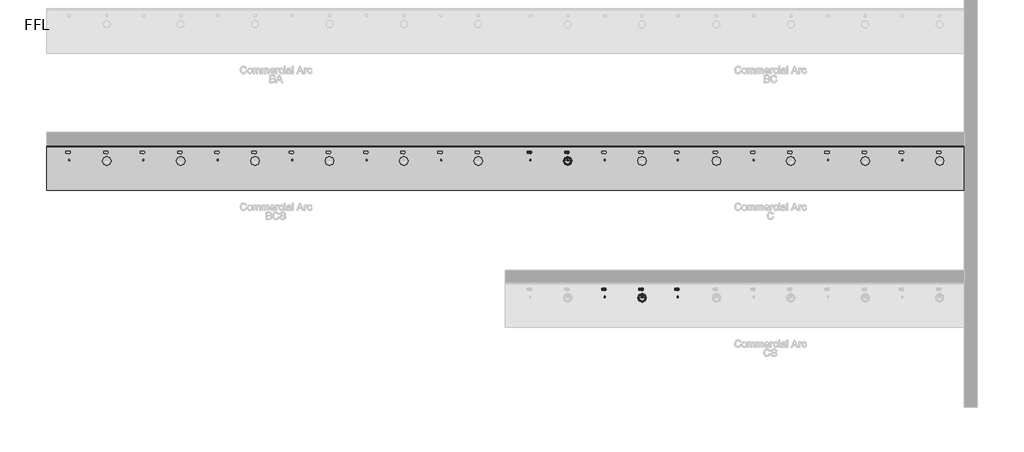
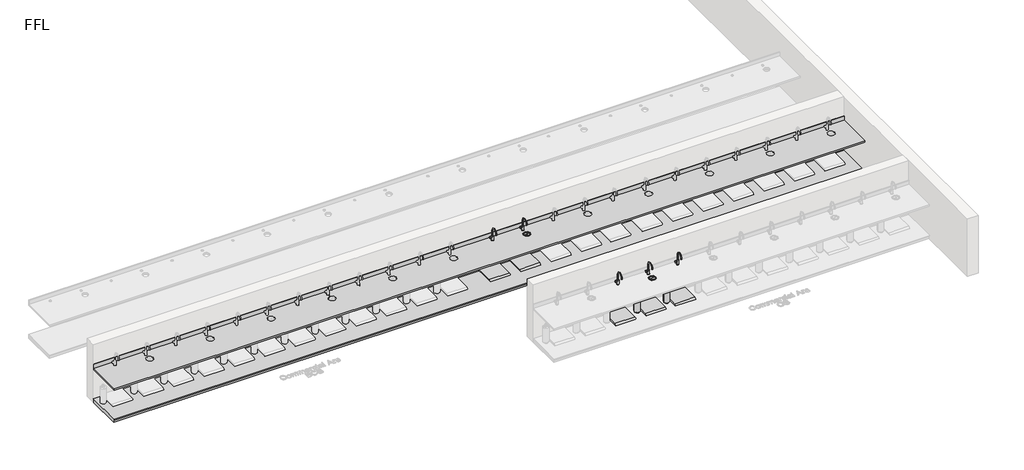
# One storey, part 2 of 10: 19 flow terminals, 2 furniture elements.
"""IFC4 building model written with IfcOpenShell, lengths in millimetres."""

from ifc_helpers import new_model, si_unit, frame, origin, place, context, project, spatial, polyline, circle_curve, transform, mapped, element, save
from ifc_brep_helpers import plane_surface, revolved_surface, advanced_brep
from components import flow_terminal_1fd3c137, bright_chrome_dafbc2dd, brushed_chrome_743c02cf, co2_gas_cylinder_20234e14, bcs_and_bc_6de74493, generic_plinth_900mm_f287d53f

model = new_model("IFC4")

# Units and contexts
model_context = context("Model", 3, world=origin())
ifc_project = project(units=[si_unit("LENGTHUNIT", "METRE", prefix="MILLI")], contexts=[model_context])

# Site, building, storey
site = spatial("IfcSite", under=ifc_project)
building = spatial("IfcBuilding", under=site)
storey = spatial("IfcBuildingStorey", under=building, Name="FFL", Elevation=0.0)

# Flow terminals
placement = place(None, origin())
flow_terminal_shape = flow_terminal_1fd3c137(model_context)
element("IfcFlowTerminal", 1, ObjectType="z_PlumFixt_Zenith_Booster : Booster", at=placement, inside=storey, context=model_context, shape_type="MappedRepresentation", body=[
    mapped(flow_terminal_shape, transform((2786.2647071, -379.7606696, 538.0), x_axis=(1.0, 0.0, 0.0), y_axis=(0.0, 1.0, 0.0), z_axis=(0.0, 0.0, 1.0))),
])
element("IfcFlowTerminal", 2, ObjectType="z_PlumFixt_Zenith_Booster : Booster", at=placement, inside=storey, context=model_context, shape_type="MappedRepresentation", body=[
    mapped(flow_terminal_shape, transform((3536.2647071, -379.7606696, 538.0), x_axis=(1.0, 0.0, 0.0), y_axis=(0.0, 1.0, 0.0), z_axis=(0.0, 0.0, 1.0))),
])
element("IfcFlowTerminal", 3, ObjectType="z_PlumFixt_Zenith_Booster : Booster", at=placement, inside=storey, context=model_context, shape_type="MappedRepresentation", body=[
    mapped(flow_terminal_shape, transform((5036.2647071, -3139.7606696, 538.0), x_axis=(1.0, 0.0, 0.0), y_axis=(0.0, 1.0, 0.0), z_axis=(0.0, 0.0, 1.0))),
])
element("IfcFlowTerminal", 4, ObjectType="z_PlumFixt_Zenith_Booster : Booster", at=placement, inside=storey, context=model_context, shape_type="MappedRepresentation", body=[
    mapped(flow_terminal_shape, transform((5758.2647071, -3139.7606696, 538.0), x_axis=(1.0, 0.0, 0.0), y_axis=(0.0, 1.0, 0.0), z_axis=(0.0, 0.0, 1.0))),
])
element("IfcFlowTerminal", 5, ObjectType="z_PlumFixt_Zenith_Booster : Booster", at=placement, inside=storey, context=model_context, shape_type="MappedRepresentation", body=[
    mapped(flow_terminal_shape, transform((4286.2647071, -3139.7606696, 538.0), x_axis=(1.0, 0.0, 0.0), y_axis=(0.0, 1.0, 0.0), z_axis=(0.0, 0.0, 1.0))),
])
bright_chrome_shape = bright_chrome_dafbc2dd(model_context)
element("IfcFlowTerminal", 6, ObjectType="z_PlumFixt_Zenith_Arc : Bright Chrome", at=placement, inside=storey, context=model_context, shape_type="MappedRepresentation", body=[
    mapped(bright_chrome_shape, transform((2769.2647071, -654.2606696, 900.0), x_axis=(1.0, 0.0, 0.0), y_axis=(0.0, 1.0, 0.0), z_axis=(0.0, 0.0, 1.0))),
])
brushed_chrome_shape = brushed_chrome_743c02cf(model_context)
element("IfcFlowTerminal", 7, ObjectType="z_PlumFixt_Zenith_Font : Brushed Chrome", at=placement, inside=storey, context=model_context, shape_type="MappedRepresentation", body=[
    mapped(brushed_chrome_shape, transform((3536.2647071, -753.7606696, 900.0), x_axis=(1.0, 0.0, 0.0), y_axis=(0.0, 1.0, 0.0), z_axis=(0.0, 0.0, 1.0))),
])
element("IfcFlowTerminal", 8, ObjectType="z_PlumFixt_Zenith_Arc : Brushed Chrome", at=placement, inside=storey, context=model_context, shape_type="MappedRepresentation", body=[
    mapped(bright_chrome_shape, transform((3519.2647071, -654.2606696, 900.0), x_axis=(1.0, 0.0, 0.0), y_axis=(0.0, 1.0, 0.0), z_axis=(0.0, 0.0, 1.0))),
])
element("IfcFlowTerminal", 9, ObjectType="z_PlumFixt_Zenith_Arc : Brushed Gold", at=placement, inside=storey, context=model_context, shape_type="MappedRepresentation", body=[
    mapped(bright_chrome_shape, transform((4269.2647071, -3414.2606696, 900.0), x_axis=(1.0, 0.0, 0.0), y_axis=(0.0, 1.0, 0.0), z_axis=(0.0, 0.0, 1.0))),
])
element("IfcFlowTerminal", 10, ObjectType="z_PlumFixt_Zenith_Font : Brushed Nickel", at=placement, inside=storey, context=model_context, shape_type="MappedRepresentation", body=[
    mapped(brushed_chrome_shape, transform((5036.2647071, -3513.7606696, 900.0), x_axis=(1.0, 0.0, 0.0), y_axis=(0.0, 1.0, 0.0), z_axis=(0.0, 0.0, 1.0))),
])
element("IfcFlowTerminal", 11, ObjectType="z_PlumFixt_Zenith_Arc : Brushed Nickel", at=placement, inside=storey, context=model_context, shape_type="MappedRepresentation", body=[
    mapped(bright_chrome_shape, transform((5019.2647071, -3414.2606696, 900.0), x_axis=(1.0, 0.0, 0.0), y_axis=(0.0, 1.0, 0.0), z_axis=(0.0, 0.0, 1.0))),
])
element("IfcFlowTerminal", 12, ObjectType="z_PlumFixt_Zenith_Arc : Brushed Rose Gold", at=placement, inside=storey, context=model_context, shape_type="MappedRepresentation", body=[
    mapped(bright_chrome_shape, transform((5741.2647071, -3414.2606696, 900.0), x_axis=(1.0, 0.0, 0.0), y_axis=(0.0, 1.0, 0.0), z_axis=(0.0, 0.0, 1.0))),
])
co2_gas_cylinder_shape = co2_gas_cylinder_20234e14(model_context)
element("IfcFlowTerminal", 13, ObjectType="z_PlumFixt_Zenith_CO2 Gas Cylinder : CO2 Gas Cylinder", at=placement, inside=storey, context=model_context, shape_type="MappedRepresentation", body=[
    mapped(co2_gas_cylinder_shape, transform((4698.2647071, -3521.7606696, 100.0), x_axis=(-1.0, 0.0, 0.0), y_axis=(0.0, -1.0, 0.0), z_axis=(0.0, 0.0, 1.0))),
])
element("IfcFlowTerminal", 14, ObjectType="z_PlumFixt_Zenith_CO2 Gas Cylinder : CO2 Gas Cylinder", at=placement, inside=storey, context=model_context, shape_type="MappedRepresentation", body=[
    mapped(co2_gas_cylinder_shape, transform((5420.2647071, -3521.7606696, 100.0), x_axis=(-1.0, 0.0, 0.0), y_axis=(0.0, -1.0, 0.0), z_axis=(0.0, 0.0, 1.0))),
])
bcs_and_bc_shape = bcs_and_bc_6de74493(model_context)
element("IfcFlowTerminal", 15, ObjectType="z_PlumFixt_Zenith_Vent Tray : CS and C", at=placement, inside=storey, context=model_context, shape_type="MappedRepresentation", body=[
    mapped(bcs_and_bc_shape, transform((2786.2647071, -559.2606696, 100.0), x_axis=(1.0, 0.0, 0.0), y_axis=(0.0, 1.0, 0.0), z_axis=(0.0, 0.0, 1.0))),
])
element("IfcFlowTerminal", 16, ObjectType="z_PlumFixt_Zenith_Vent Tray : CS and C", at=placement, inside=storey, context=model_context, shape_type="MappedRepresentation", body=[
    mapped(bcs_and_bc_shape, transform((3536.2647071, -559.2606696, 100.0), x_axis=(1.0, 0.0, 0.0), y_axis=(0.0, 1.0, 0.0), z_axis=(0.0, 0.0, 1.0))),
])
element("IfcFlowTerminal", 17, ObjectType="z_PlumFixt_Zenith_Vent Tray : CS and C", at=placement, inside=storey, context=model_context, shape_type="MappedRepresentation", body=[
    mapped(bcs_and_bc_shape, transform((5036.2647071, -3319.2606696, 100.0), x_axis=(1.0, 0.0, 0.0), y_axis=(0.0, 1.0, 0.0), z_axis=(0.0, 0.0, 1.0))),
])
element("IfcFlowTerminal", 18, ObjectType="z_PlumFixt_Zenith_Vent Tray : CS and C", at=placement, inside=storey, context=model_context, shape_type="MappedRepresentation", body=[
    mapped(bcs_and_bc_shape, transform((5758.2647071, -3319.2606696, 100.0), x_axis=(1.0, 0.0, 0.0), y_axis=(0.0, 1.0, 0.0), z_axis=(0.0, 0.0, 1.0))),
])
element("IfcFlowTerminal", 19, ObjectType="z_PlumFixt_Zenith_Vent Tray : CS and C", at=placement, inside=storey, context=model_context, shape_type="MappedRepresentation", body=[
    mapped(bcs_and_bc_shape, transform((4286.2647071, -3319.2606696, 100.0), x_axis=(1.0, 0.0, 0.0), y_axis=(0.0, 1.0, 0.0), z_axis=(0.0, 0.0, 1.0))),
])

# Furniture
element("IfcFurniture", 20, ObjectType="Counter Top : 900mm Depth", at=placement, inside=storey, context=model_context, shape_type="AdvancedBrep", body=[
    advanced_brep(
    [(-6969.7352929, -1331.7606696, 900.0), (11530.2647071, -1331.7606696, 900.0), (11530.2647071, -450.8106696, 900.0), (-6969.7352929, -450.8106696, 900.0), (-6539.7352929, -566.7606696, 900.0), (-6491.7352929, -566.7606696, 900.0), (-5779.7352929, -566.7606696, 900.0), (-5731.7352929, -566.7606696, 900.0), (-5687.5352929, -738.7503538, 900.0), (-5823.9352929, -738.7503538, 900.0), (-5039.7352929, -566.7606696, 900.0), (-4991.7352929, -566.7606696, 900.0), (-4289.7352929, -566.7606696, 900.0), (-4241.7352929, -566.7606696, 900.0), (-4197.5352929, -738.7503538, 900.0), (-4333.9352929, -738.7503538, 900.0), (-3539.7352929, -566.7606696, 900.0), (-3491.7352929, -566.7606696, 900.0), (-2789.7352929, -566.7606696, 900.0), (-2741.7352929, -566.7606696, 900.0), (-2697.5352929, -738.7503538, 900.0), (-2833.9352929, -738.7503538, 900.0), (-2039.7352929, -566.7606696, 900.0), (-1991.7352929, -566.7606696, 900.0), (-539.7352929, -566.7606696, 900.0), (-491.7352929, -566.7606696, 900.0), (-1289.7352929, -566.7606696, 900.0), (-1241.7352929, -566.7606696, 900.0), (-1197.5352929, -738.7503538, 900.0), (-1333.9352929, -738.7503538, 900.0), (210.2647071, -566.7606696, 900.0), (258.2647071, -566.7606696, 900.0), (302.4647071, -738.7503538, 900.0), (166.0647071, -738.7503538, 900.0), (960.2647071, -566.7606696, 900.0), (1008.2647071, -566.7606696, 900.0), (1710.2647071, -566.7606696, 900.0), (1758.2647071, -566.7606696, 900.0), (1802.4647071, -738.7503538, 900.0), (1666.0647071, -738.7503538, 900.0), (2763.2647071, -566.7606696, 900.0), (2811.2647071, -566.7606696, 900.0), (3513.2647071, -566.7606696, 900.0), (3561.2647071, -566.7606696, 900.0), (3605.4647071, -738.7503538, 900.0), (3469.0647071, -738.7503538, 900.0), (4263.2647071, -566.7606696, 900.0), (4311.2647071, -566.7606696, 900.0), (5013.2647071, -566.7606696, 900.0), (5061.2647071, -566.7606696, 900.0), (5105.4647071, -738.7503538, 900.0), (4969.0647071, -738.7503538, 900.0), (5735.2647071, -566.7606696, 900.0), (5783.2647071, -566.7606696, 900.0), (6513.2647071, -566.7606696, 900.0), (6561.2647071, -566.7606696, 900.0), (6605.4647071, -738.7503538, 900.0), (6469.0647071, -738.7503538, 900.0), (7263.2647071, -566.7606696, 900.0), (7311.2647071, -566.7606696, 900.0), (8013.2647071, -566.7606696, 900.0), (8061.2647071, -566.7606696, 900.0), (8105.4647071, -738.7503538, 900.0), (7969.0647071, -738.7503538, 900.0), (8763.2647071, -566.7606696, 900.0), (8811.2647071, -566.7606696, 900.0), (9513.2647071, -566.7606696, 900.0), (9561.2647071, -566.7606696, 900.0), (9605.4647071, -738.7503538, 900.0), (9469.0647071, -738.7503538, 900.0), (10263.2647071, -566.7606696, 900.0), (10311.2647071, -566.7606696, 900.0), (11013.2647071, -566.7606696, 900.0), (11061.2647071, -566.7606696, 900.0), (11105.4647071, -738.7503538, 900.0), (10969.0647071, -738.7503538, 900.0), (11530.2647071, -431.7606696, 860.0), (11530.2647071, -1331.7606696, 860.0), (-6969.7352929, -1331.7606696, 860.0), (-6969.7352929, -431.7606696, 860.0), (-6491.7352929, -566.7606696, 860.0), (-6539.7352929, -566.7606696, 860.0), (-5731.7352929, -566.7606696, 860.0), (-5779.7352929, -566.7606696, 860.0), (-5823.9352929, -738.7503538, 860.0), (-5687.5352929, -738.7503538, 860.0), (-4991.7352929, -566.7606696, 860.0), (-5039.7352929, -566.7606696, 860.0), (-4241.7352929, -566.7606696, 860.0), (-4289.7352929, -566.7606696, 860.0), (-4333.9352929, -738.7503538, 860.0), (-4197.5352929, -738.7503538, 860.0), (-3491.7352929, -566.7606696, 860.0), (-3539.7352929, -566.7606696, 860.0), (-2741.7352929, -566.7606696, 860.0), (-2789.7352929, -566.7606696, 860.0), (-2833.9352929, -738.7503538, 860.0), (-2697.5352929, -738.7503538, 860.0), (-1991.7352929, -566.7606696, 860.0), (-2039.7352929, -566.7606696, 860.0), (-491.7352929, -566.7606696, 860.0), (-539.7352929, -566.7606696, 860.0), (-1241.7352929, -566.7606696, 860.0), (-1289.7352929, -566.7606696, 860.0), (-1333.9352929, -738.7503538, 860.0), (-1197.5352929, -738.7503538, 860.0), (258.2647071, -566.7606696, 860.0), (210.2647071, -566.7606696, 860.0), (166.0647071, -738.7503538, 860.0), (302.4647071, -738.7503538, 860.0), (1008.2647071, -566.7606696, 860.0), (960.2647071, -566.7606696, 860.0), (1758.2647071, -566.7606696, 860.0), (1710.2647071, -566.7606696, 860.0), (1666.0647071, -738.7503538, 860.0), (1802.4647071, -738.7503538, 860.0), (2811.2647071, -566.7606696, 860.0), (2763.2647071, -566.7606696, 860.0), (3561.2647071, -566.7606696, 860.0), (3513.2647071, -566.7606696, 860.0), (3469.0647071, -738.7503538, 860.0), (3605.4647071, -738.7503538, 860.0), (4311.2647071, -566.7606696, 860.0), (4263.2647071, -566.7606696, 860.0), (5061.2647071, -566.7606696, 860.0), (5013.2647071, -566.7606696, 860.0), (4969.0647071, -738.7503538, 860.0), (5105.4647071, -738.7503538, 860.0), (5783.2647071, -566.7606696, 860.0), (5735.2647071, -566.7606696, 860.0), (6561.2647071, -566.7606696, 860.0), (6513.2647071, -566.7606696, 860.0), (6469.0647071, -738.7503538, 860.0), (6605.4647071, -738.7503538, 860.0), (7311.2647071, -566.7606696, 860.0), (7263.2647071, -566.7606696, 860.0), (8061.2647071, -566.7606696, 860.0), (8013.2647071, -566.7606696, 860.0), (7969.0647071, -738.7503538, 860.0), (8105.4647071, -738.7503538, 860.0), (8811.2647071, -566.7606696, 860.0), (8763.2647071, -566.7606696, 860.0), (9561.2647071, -566.7606696, 860.0), (9513.2647071, -566.7606696, 860.0), (9469.0647071, -738.7503538, 860.0), (9605.4647071, -738.7503538, 860.0), (10311.2647071, -566.7606696, 860.0), (10263.2647071, -566.7606696, 860.0), (11061.2647071, -566.7606696, 860.0), (11013.2647071, -566.7606696, 860.0), (10969.0647071, -738.7503538, 860.0), (11105.4647071, -738.7503538, 860.0), (-6969.7352929, -431.7606696, 1001.6), (11530.2647071, -431.7606696, 1001.6), (-6969.7352929, -450.8106696, 1001.6), (11530.2647071, -450.8106696, 1001.6)],
    [
        (0, 1),
        (1, 2),
        (2, 3),
        (3, 0),
        (4, 5, circle_curve(frame((-6515.7352929, -566.7606696, 900.0), z_axis=(0.0, 0.0, -1.0), x_axis=(-1.0, 0.0, 0.0)), 24.0)),
        (5, 4, circle_curve(frame((-6515.7352929, -566.7606696, 900.0), z_axis=(0.0, 0.0, -1.0), x_axis=(-1.0, 0.0, 0.0)), 24.0)),
        (6, 7, circle_curve(frame((-5755.7352929, -566.7606696, 900.0), z_axis=(0.0, 0.0, -1.0), x_axis=(-1.0, 0.0, 0.0)), 24.0)),
        (7, 6, circle_curve(frame((-5755.7352929, -566.7606696, 900.0), z_axis=(0.0, 0.0, -1.0), x_axis=(-1.0, 0.0, 0.0)), 24.0)),
        (8, 9, circle_curve(frame((-5755.7352929, -738.7503538, 900.0), z_axis=(0.0, 0.0, -1.0), x_axis=(-1.0, 0.0, 0.0)), 68.2)),
        (9, 8, circle_curve(frame((-5755.7352929, -738.7503538, 900.0), z_axis=(0.0, 0.0, -1.0), x_axis=(-1.0, 0.0, 0.0)), 68.2)),
        (10, 11, circle_curve(frame((-5015.7352929, -566.7606696, 900.0), z_axis=(0.0, 0.0, -1.0), x_axis=(-1.0, 0.0, 0.0)), 24.0)),
        (11, 10, circle_curve(frame((-5015.7352929, -566.7606696, 900.0), z_axis=(0.0, 0.0, -1.0), x_axis=(-1.0, 0.0, 0.0)), 24.0)),
        (12, 13, circle_curve(frame((-4265.7352929, -566.7606696, 900.0), z_axis=(0.0, 0.0, -1.0), x_axis=(-1.0, 0.0, 0.0)), 24.0)),
        (13, 12, circle_curve(frame((-4265.7352929, -566.7606696, 900.0), z_axis=(0.0, 0.0, -1.0), x_axis=(-1.0, 0.0, 0.0)), 24.0)),
        (14, 15, circle_curve(frame((-4265.7352929, -738.7503538, 900.0), z_axis=(0.0, 0.0, -1.0), x_axis=(-1.0, 0.0, 0.0)), 68.2)),
        (15, 14, circle_curve(frame((-4265.7352929, -738.7503538, 900.0), z_axis=(0.0, 0.0, -1.0), x_axis=(-1.0, 0.0, 0.0)), 68.2)),
        (16, 17, circle_curve(frame((-3515.7352929, -566.7606696, 900.0), z_axis=(0.0, 0.0, -1.0), x_axis=(-1.0, 0.0, 0.0)), 24.0)),
        (17, 16, circle_curve(frame((-3515.7352929, -566.7606696, 900.0), z_axis=(0.0, 0.0, -1.0), x_axis=(-1.0, 0.0, 0.0)), 24.0)),
        (18, 19, circle_curve(frame((-2765.7352929, -566.7606696, 900.0), z_axis=(0.0, 0.0, -1.0), x_axis=(-1.0, 0.0, 0.0)), 24.0)),
        (19, 18, circle_curve(frame((-2765.7352929, -566.7606696, 900.0), z_axis=(0.0, 0.0, -1.0), x_axis=(-1.0, 0.0, 0.0)), 24.0)),
        (20, 21, circle_curve(frame((-2765.7352929, -738.7503538, 900.0), z_axis=(0.0, 0.0, -1.0), x_axis=(-1.0, 0.0, 0.0)), 68.2)),
        (21, 20, circle_curve(frame((-2765.7352929, -738.7503538, 900.0), z_axis=(0.0, 0.0, -1.0), x_axis=(-1.0, 0.0, 0.0)), 68.2)),
        (22, 23, circle_curve(frame((-2015.7352929, -566.7606696, 900.0), z_axis=(0.0, 0.0, -1.0), x_axis=(-1.0, 0.0, 0.0)), 24.0)),
        (23, 22, circle_curve(frame((-2015.7352929, -566.7606696, 900.0), z_axis=(0.0, 0.0, -1.0), x_axis=(-1.0, 0.0, 0.0)), 24.0)),
        (24, 25, circle_curve(frame((-515.7352929, -566.7606696, 900.0), z_axis=(0.0, 0.0, -1.0), x_axis=(-1.0, 0.0, 0.0)), 24.0)),
        (25, 24, circle_curve(frame((-515.7352929, -566.7606696, 900.0), z_axis=(0.0, 0.0, -1.0), x_axis=(-1.0, 0.0, 0.0)), 24.0)),
        (26, 27, circle_curve(frame((-1265.7352929, -566.7606696, 900.0), z_axis=(0.0, 0.0, -1.0), x_axis=(-1.0, 0.0, 0.0)), 24.0)),
        (27, 26, circle_curve(frame((-1265.7352929, -566.7606696, 900.0), z_axis=(0.0, 0.0, -1.0), x_axis=(-1.0, 0.0, 0.0)), 24.0)),
        (28, 29, circle_curve(frame((-1265.7352929, -738.7503538, 900.0), z_axis=(0.0, 0.0, -1.0), x_axis=(-1.0, 0.0, 0.0)), 68.2)),
        (29, 28, circle_curve(frame((-1265.7352929, -738.7503538, 900.0), z_axis=(0.0, 0.0, -1.0), x_axis=(-1.0, 0.0, 0.0)), 68.2)),
        (30, 31, circle_curve(frame((234.2647071, -566.7606696, 900.0), z_axis=(0.0, 0.0, -1.0), x_axis=(-1.0, 0.0, 0.0)), 24.0)),
        (31, 30, circle_curve(frame((234.2647071, -566.7606696, 900.0), z_axis=(0.0, 0.0, -1.0), x_axis=(-1.0, 0.0, 0.0)), 24.0)),
        (32, 33, circle_curve(frame((234.2647071, -738.7503538, 900.0), z_axis=(0.0, 0.0, -1.0), x_axis=(-1.0, 0.0, 0.0)), 68.2)),
        (33, 32, circle_curve(frame((234.2647071, -738.7503538, 900.0), z_axis=(0.0, 0.0, -1.0), x_axis=(-1.0, 0.0, 0.0)), 68.2)),
        (34, 35, circle_curve(frame((984.2647071, -566.7606696, 900.0), z_axis=(0.0, 0.0, -1.0), x_axis=(-1.0, 0.0, 0.0)), 24.0)),
        (35, 34, circle_curve(frame((984.2647071, -566.7606696, 900.0), z_axis=(0.0, 0.0, -1.0), x_axis=(-1.0, 0.0, 0.0)), 24.0)),
        (36, 37, circle_curve(frame((1734.2647071, -566.7606696, 900.0), z_axis=(0.0, 0.0, -1.0), x_axis=(-1.0, 0.0, 0.0)), 24.0)),
        (37, 36, circle_curve(frame((1734.2647071, -566.7606696, 900.0), z_axis=(0.0, 0.0, -1.0), x_axis=(-1.0, 0.0, 0.0)), 24.0)),
        (38, 39, circle_curve(frame((1734.2647071, -738.7503538, 900.0), z_axis=(0.0, 0.0, -1.0), x_axis=(-1.0, 0.0, 0.0)), 68.2)),
        (39, 38, circle_curve(frame((1734.2647071, -738.7503538, 900.0), z_axis=(0.0, 0.0, -1.0), x_axis=(-1.0, 0.0, 0.0)), 68.2)),
        (40, 41, circle_curve(frame((2787.2647071, -566.7606696, 900.0), z_axis=(0.0, 0.0, -1.0), x_axis=(-1.0, 0.0, 0.0)), 24.0)),
        (41, 40, circle_curve(frame((2787.2647071, -566.7606696, 900.0), z_axis=(0.0, 0.0, -1.0), x_axis=(-1.0, 0.0, 0.0)), 24.0)),
        (42, 43, circle_curve(frame((3537.2647071, -566.7606696, 900.0), z_axis=(0.0, 0.0, -1.0), x_axis=(-1.0, 0.0, 0.0)), 24.0)),
        (43, 42, circle_curve(frame((3537.2647071, -566.7606696, 900.0), z_axis=(0.0, 0.0, -1.0), x_axis=(-1.0, 0.0, 0.0)), 24.0)),
        (44, 45, circle_curve(frame((3537.2647071, -738.7503538, 900.0), z_axis=(0.0, 0.0, -1.0), x_axis=(-1.0, 0.0, 0.0)), 68.2)),
        (45, 44, circle_curve(frame((3537.2647071, -738.7503538, 900.0), z_axis=(0.0, 0.0, -1.0), x_axis=(-1.0, 0.0, 0.0)), 68.2)),
        (46, 47, circle_curve(frame((4287.2647071, -566.7606696, 900.0), z_axis=(0.0, 0.0, -1.0), x_axis=(-1.0, 0.0, 0.0)), 24.0)),
        (47, 46, circle_curve(frame((4287.2647071, -566.7606696, 900.0), z_axis=(0.0, 0.0, -1.0), x_axis=(-1.0, 0.0, 0.0)), 24.0)),
        (48, 49, circle_curve(frame((5037.2647071, -566.7606696, 900.0), z_axis=(0.0, 0.0, -1.0), x_axis=(-1.0, 0.0, 0.0)), 24.0)),
        (49, 48, circle_curve(frame((5037.2647071, -566.7606696, 900.0), z_axis=(0.0, 0.0, -1.0), x_axis=(-1.0, 0.0, 0.0)), 24.0)),
        (50, 51, circle_curve(frame((5037.2647071, -738.7503538, 900.0), z_axis=(0.0, 0.0, -1.0), x_axis=(-1.0, 0.0, 0.0)), 68.2)),
        (51, 50, circle_curve(frame((5037.2647071, -738.7503538, 900.0), z_axis=(0.0, 0.0, -1.0), x_axis=(-1.0, 0.0, 0.0)), 68.2)),
        (52, 53, circle_curve(frame((5759.2647071, -566.7606696, 900.0), z_axis=(0.0, 0.0, -1.0), x_axis=(-1.0, 0.0, 0.0)), 24.0)),
        (53, 52, circle_curve(frame((5759.2647071, -566.7606696, 900.0), z_axis=(0.0, 0.0, -1.0), x_axis=(-1.0, 0.0, 0.0)), 24.0)),
        (54, 55, circle_curve(frame((6537.2647071, -566.7606696, 900.0), z_axis=(0.0, 0.0, -1.0), x_axis=(-1.0, 0.0, 0.0)), 24.0)),
        (55, 54, circle_curve(frame((6537.2647071, -566.7606696, 900.0), z_axis=(0.0, 0.0, -1.0), x_axis=(-1.0, 0.0, 0.0)), 24.0)),
        (56, 57, circle_curve(frame((6537.2647071, -738.7503538, 900.0), z_axis=(0.0, 0.0, -1.0), x_axis=(-1.0, 0.0, 0.0)), 68.2)),
        (57, 56, circle_curve(frame((6537.2647071, -738.7503538, 900.0), z_axis=(0.0, 0.0, -1.0), x_axis=(-1.0, 0.0, 0.0)), 68.2)),
        (58, 59, circle_curve(frame((7287.2647071, -566.7606696, 900.0), z_axis=(0.0, 0.0, -1.0), x_axis=(-1.0, 0.0, 0.0)), 24.0)),
        (59, 58, circle_curve(frame((7287.2647071, -566.7606696, 900.0), z_axis=(0.0, 0.0, -1.0), x_axis=(-1.0, 0.0, 0.0)), 24.0)),
        (60, 61, circle_curve(frame((8037.2647071, -566.7606696, 900.0), z_axis=(0.0, 0.0, -1.0), x_axis=(-1.0, 0.0, 0.0)), 24.0)),
        (61, 60, circle_curve(frame((8037.2647071, -566.7606696, 900.0), z_axis=(0.0, 0.0, -1.0), x_axis=(-1.0, 0.0, 0.0)), 24.0)),
        (62, 63, circle_curve(frame((8037.2647071, -738.7503538, 900.0), z_axis=(0.0, 0.0, -1.0), x_axis=(-1.0, 0.0, 0.0)), 68.2)),
        (63, 62, circle_curve(frame((8037.2647071, -738.7503538, 900.0), z_axis=(0.0, 0.0, -1.0), x_axis=(-1.0, 0.0, 0.0)), 68.2)),
        (64, 65, circle_curve(frame((8787.2647071, -566.7606696, 900.0), z_axis=(0.0, 0.0, -1.0), x_axis=(-1.0, 0.0, 0.0)), 24.0)),
        (65, 64, circle_curve(frame((8787.2647071, -566.7606696, 900.0), z_axis=(0.0, 0.0, -1.0), x_axis=(-1.0, 0.0, 0.0)), 24.0)),
        (66, 67, circle_curve(frame((9537.2647071, -566.7606696, 900.0), z_axis=(0.0, 0.0, -1.0), x_axis=(-1.0, 0.0, 0.0)), 24.0)),
        (67, 66, circle_curve(frame((9537.2647071, -566.7606696, 900.0), z_axis=(0.0, 0.0, -1.0), x_axis=(-1.0, 0.0, 0.0)), 24.0)),
        (68, 69, circle_curve(frame((9537.2647071, -738.7503538, 900.0), z_axis=(0.0, 0.0, -1.0), x_axis=(-1.0, 0.0, 0.0)), 68.2)),
        (69, 68, circle_curve(frame((9537.2647071, -738.7503538, 900.0), z_axis=(0.0, 0.0, -1.0), x_axis=(-1.0, 0.0, 0.0)), 68.2)),
        (70, 71, circle_curve(frame((10287.2647071, -566.7606696, 900.0), z_axis=(0.0, 0.0, -1.0), x_axis=(-1.0, 0.0, 0.0)), 24.0)),
        (71, 70, circle_curve(frame((10287.2647071, -566.7606696, 900.0), z_axis=(0.0, 0.0, -1.0), x_axis=(-1.0, 0.0, 0.0)), 24.0)),
        (72, 73, circle_curve(frame((11037.2647071, -566.7606696, 900.0), z_axis=(0.0, 0.0, -1.0), x_axis=(-1.0, 0.0, 0.0)), 24.0)),
        (73, 72, circle_curve(frame((11037.2647071, -566.7606696, 900.0), z_axis=(0.0, 0.0, -1.0), x_axis=(-1.0, 0.0, 0.0)), 24.0)),
        (74, 75, circle_curve(frame((11037.2647071, -738.7503538, 900.0), z_axis=(0.0, 0.0, -1.0), x_axis=(-1.0, 0.0, 0.0)), 68.2)),
        (75, 74, circle_curve(frame((11037.2647071, -738.7503538, 900.0), z_axis=(0.0, 0.0, -1.0), x_axis=(-1.0, 0.0, 0.0)), 68.2)),
        (76, 77),
        (77, 78),
        (78, 79),
        (79, 76),
        (80, 81, circle_curve(frame((-6515.7352929, -566.7606696, 860.0), z_axis=(0.0, 0.0, 1.0), x_axis=(-1.0, 0.0, 0.0)), 24.0)),
        (81, 80, circle_curve(frame((-6515.7352929, -566.7606696, 860.0), z_axis=(0.0, 0.0, 1.0), x_axis=(-1.0, 0.0, 0.0)), 24.0)),
        (82, 83, circle_curve(frame((-5755.7352929, -566.7606696, 860.0), z_axis=(0.0, 0.0, 1.0), x_axis=(-1.0, 0.0, 0.0)), 24.0)),
        (83, 82, circle_curve(frame((-5755.7352929, -566.7606696, 860.0), z_axis=(0.0, 0.0, 1.0), x_axis=(-1.0, 0.0, 0.0)), 24.0)),
        (84, 85, circle_curve(frame((-5755.7352929, -738.7503538, 860.0), z_axis=(0.0, 0.0, 1.0), x_axis=(-1.0, 0.0, 0.0)), 68.2)),
        (85, 84, circle_curve(frame((-5755.7352929, -738.7503538, 860.0), z_axis=(0.0, 0.0, 1.0), x_axis=(-1.0, 0.0, 0.0)), 68.2)),
        (86, 87, circle_curve(frame((-5015.7352929, -566.7606696, 860.0), z_axis=(0.0, 0.0, 1.0), x_axis=(-1.0, 0.0, 0.0)), 24.0)),
        (87, 86, circle_curve(frame((-5015.7352929, -566.7606696, 860.0), z_axis=(0.0, 0.0, 1.0), x_axis=(-1.0, 0.0, 0.0)), 24.0)),
        (88, 89, circle_curve(frame((-4265.7352929, -566.7606696, 860.0), z_axis=(0.0, 0.0, 1.0), x_axis=(-1.0, 0.0, 0.0)), 24.0)),
        (89, 88, circle_curve(frame((-4265.7352929, -566.7606696, 860.0), z_axis=(0.0, 0.0, 1.0), x_axis=(-1.0, 0.0, 0.0)), 24.0)),
        (90, 91, circle_curve(frame((-4265.7352929, -738.7503538, 860.0), z_axis=(0.0, 0.0, 1.0), x_axis=(-1.0, 0.0, 0.0)), 68.2)),
        (91, 90, circle_curve(frame((-4265.7352929, -738.7503538, 860.0), z_axis=(0.0, 0.0, 1.0), x_axis=(-1.0, 0.0, 0.0)), 68.2)),
        (92, 93, circle_curve(frame((-3515.7352929, -566.7606696, 860.0), z_axis=(0.0, 0.0, 1.0), x_axis=(-1.0, 0.0, 0.0)), 24.0)),
        (93, 92, circle_curve(frame((-3515.7352929, -566.7606696, 860.0), z_axis=(0.0, 0.0, 1.0), x_axis=(-1.0, 0.0, 0.0)), 24.0)),
        (94, 95, circle_curve(frame((-2765.7352929, -566.7606696, 860.0), z_axis=(0.0, 0.0, 1.0), x_axis=(-1.0, 0.0, 0.0)), 24.0)),
        (95, 94, circle_curve(frame((-2765.7352929, -566.7606696, 860.0), z_axis=(0.0, 0.0, 1.0), x_axis=(-1.0, 0.0, 0.0)), 24.0)),
        (96, 97, circle_curve(frame((-2765.7352929, -738.7503538, 860.0), z_axis=(0.0, 0.0, 1.0), x_axis=(-1.0, 0.0, 0.0)), 68.2)),
        (97, 96, circle_curve(frame((-2765.7352929, -738.7503538, 860.0), z_axis=(0.0, 0.0, 1.0), x_axis=(-1.0, 0.0, 0.0)), 68.2)),
        (98, 99, circle_curve(frame((-2015.7352929, -566.7606696, 860.0), z_axis=(0.0, 0.0, 1.0), x_axis=(-1.0, 0.0, 0.0)), 24.0)),
        (99, 98, circle_curve(frame((-2015.7352929, -566.7606696, 860.0), z_axis=(0.0, 0.0, 1.0), x_axis=(-1.0, 0.0, 0.0)), 24.0)),
        (100, 101, circle_curve(frame((-515.7352929, -566.7606696, 860.0), z_axis=(0.0, 0.0, 1.0), x_axis=(-1.0, 0.0, 0.0)), 24.0)),
        (101, 100, circle_curve(frame((-515.7352929, -566.7606696, 860.0), z_axis=(0.0, 0.0, 1.0), x_axis=(-1.0, 0.0, 0.0)), 24.0)),
        (102, 103, circle_curve(frame((-1265.7352929, -566.7606696, 860.0), z_axis=(0.0, 0.0, 1.0), x_axis=(-1.0, 0.0, 0.0)), 24.0)),
        (103, 102, circle_curve(frame((-1265.7352929, -566.7606696, 860.0), z_axis=(0.0, 0.0, 1.0), x_axis=(-1.0, 0.0, 0.0)), 24.0)),
        (104, 105, circle_curve(frame((-1265.7352929, -738.7503538, 860.0), z_axis=(0.0, 0.0, 1.0), x_axis=(-1.0, 0.0, 0.0)), 68.2)),
        (105, 104, circle_curve(frame((-1265.7352929, -738.7503538, 860.0), z_axis=(0.0, 0.0, 1.0), x_axis=(-1.0, 0.0, 0.0)), 68.2)),
        (106, 107, circle_curve(frame((234.2647071, -566.7606696, 860.0), z_axis=(0.0, 0.0, 1.0), x_axis=(-1.0, 0.0, 0.0)), 24.0)),
        (107, 106, circle_curve(frame((234.2647071, -566.7606696, 860.0), z_axis=(0.0, 0.0, 1.0), x_axis=(-1.0, 0.0, 0.0)), 24.0)),
        (108, 109, circle_curve(frame((234.2647071, -738.7503538, 860.0), z_axis=(0.0, 0.0, 1.0), x_axis=(-1.0, 0.0, 0.0)), 68.2)),
        (109, 108, circle_curve(frame((234.2647071, -738.7503538, 860.0), z_axis=(0.0, 0.0, 1.0), x_axis=(-1.0, 0.0, 0.0)), 68.2)),
        (110, 111, circle_curve(frame((984.2647071, -566.7606696, 860.0), z_axis=(0.0, 0.0, 1.0), x_axis=(-1.0, 0.0, 0.0)), 24.0)),
        (111, 110, circle_curve(frame((984.2647071, -566.7606696, 860.0), z_axis=(0.0, 0.0, 1.0), x_axis=(-1.0, 0.0, 0.0)), 24.0)),
        (112, 113, circle_curve(frame((1734.2647071, -566.7606696, 860.0), z_axis=(0.0, 0.0, 1.0), x_axis=(-1.0, 0.0, 0.0)), 24.0)),
        (113, 112, circle_curve(frame((1734.2647071, -566.7606696, 860.0), z_axis=(0.0, 0.0, 1.0), x_axis=(-1.0, 0.0, 0.0)), 24.0)),
        (114, 115, circle_curve(frame((1734.2647071, -738.7503538, 860.0), z_axis=(0.0, 0.0, 1.0), x_axis=(-1.0, 0.0, 0.0)), 68.2)),
        (115, 114, circle_curve(frame((1734.2647071, -738.7503538, 860.0), z_axis=(0.0, 0.0, 1.0), x_axis=(-1.0, 0.0, 0.0)), 68.2)),
        (116, 117, circle_curve(frame((2787.2647071, -566.7606696, 860.0), z_axis=(0.0, 0.0, 1.0), x_axis=(-1.0, 0.0, 0.0)), 24.0)),
        (117, 116, circle_curve(frame((2787.2647071, -566.7606696, 860.0), z_axis=(0.0, 0.0, 1.0), x_axis=(-1.0, 0.0, 0.0)), 24.0)),
        (118, 119, circle_curve(frame((3537.2647071, -566.7606696, 860.0), z_axis=(0.0, 0.0, 1.0), x_axis=(-1.0, 0.0, 0.0)), 24.0)),
        (119, 118, circle_curve(frame((3537.2647071, -566.7606696, 860.0), z_axis=(0.0, 0.0, 1.0), x_axis=(-1.0, 0.0, 0.0)), 24.0)),
        (120, 121, circle_curve(frame((3537.2647071, -738.7503538, 860.0), z_axis=(0.0, 0.0, 1.0), x_axis=(-1.0, 0.0, 0.0)), 68.2)),
        (121, 120, circle_curve(frame((3537.2647071, -738.7503538, 860.0), z_axis=(0.0, 0.0, 1.0), x_axis=(-1.0, 0.0, 0.0)), 68.2)),
        (122, 123, circle_curve(frame((4287.2647071, -566.7606696, 860.0), z_axis=(0.0, 0.0, 1.0), x_axis=(-1.0, 0.0, 0.0)), 24.0)),
        (123, 122, circle_curve(frame((4287.2647071, -566.7606696, 860.0), z_axis=(0.0, 0.0, 1.0), x_axis=(-1.0, 0.0, 0.0)), 24.0)),
        (124, 125, circle_curve(frame((5037.2647071, -566.7606696, 860.0), z_axis=(0.0, 0.0, 1.0), x_axis=(-1.0, 0.0, 0.0)), 24.0)),
        (125, 124, circle_curve(frame((5037.2647071, -566.7606696, 860.0), z_axis=(0.0, 0.0, 1.0), x_axis=(-1.0, 0.0, 0.0)), 24.0)),
        (126, 127, circle_curve(frame((5037.2647071, -738.7503538, 860.0), z_axis=(0.0, 0.0, 1.0), x_axis=(-1.0, 0.0, 0.0)), 68.2)),
        (127, 126, circle_curve(frame((5037.2647071, -738.7503538, 860.0), z_axis=(0.0, 0.0, 1.0), x_axis=(-1.0, 0.0, 0.0)), 68.2)),
        (128, 129, circle_curve(frame((5759.2647071, -566.7606696, 860.0), z_axis=(0.0, 0.0, 1.0), x_axis=(-1.0, 0.0, 0.0)), 24.0)),
        (129, 128, circle_curve(frame((5759.2647071, -566.7606696, 860.0), z_axis=(0.0, 0.0, 1.0), x_axis=(-1.0, 0.0, 0.0)), 24.0)),
        (130, 131, circle_curve(frame((6537.2647071, -566.7606696, 860.0), z_axis=(0.0, 0.0, 1.0), x_axis=(-1.0, 0.0, 0.0)), 24.0)),
        (131, 130, circle_curve(frame((6537.2647071, -566.7606696, 860.0), z_axis=(0.0, 0.0, 1.0), x_axis=(-1.0, 0.0, 0.0)), 24.0)),
        (132, 133, circle_curve(frame((6537.2647071, -738.7503538, 860.0), z_axis=(0.0, 0.0, 1.0), x_axis=(-1.0, 0.0, 0.0)), 68.2)),
        (133, 132, circle_curve(frame((6537.2647071, -738.7503538, 860.0), z_axis=(0.0, 0.0, 1.0), x_axis=(-1.0, 0.0, 0.0)), 68.2)),
        (134, 135, circle_curve(frame((7287.2647071, -566.7606696, 860.0), z_axis=(0.0, 0.0, 1.0), x_axis=(-1.0, 0.0, 0.0)), 24.0)),
        (135, 134, circle_curve(frame((7287.2647071, -566.7606696, 860.0), z_axis=(0.0, 0.0, 1.0), x_axis=(-1.0, 0.0, 0.0)), 24.0)),
        (136, 137, circle_curve(frame((8037.2647071, -566.7606696, 860.0), z_axis=(0.0, 0.0, 1.0), x_axis=(-1.0, 0.0, 0.0)), 24.0)),
        (137, 136, circle_curve(frame((8037.2647071, -566.7606696, 860.0), z_axis=(0.0, 0.0, 1.0), x_axis=(-1.0, 0.0, 0.0)), 24.0)),
        (138, 139, circle_curve(frame((8037.2647071, -738.7503538, 860.0), z_axis=(0.0, 0.0, 1.0), x_axis=(-1.0, 0.0, 0.0)), 68.2)),
        (139, 138, circle_curve(frame((8037.2647071, -738.7503538, 860.0), z_axis=(0.0, 0.0, 1.0), x_axis=(-1.0, 0.0, 0.0)), 68.2)),
        (140, 141, circle_curve(frame((8787.2647071, -566.7606696, 860.0), z_axis=(0.0, 0.0, 1.0), x_axis=(-1.0, 0.0, 0.0)), 24.0)),
        (141, 140, circle_curve(frame((8787.2647071, -566.7606696, 860.0), z_axis=(0.0, 0.0, 1.0), x_axis=(-1.0, 0.0, 0.0)), 24.0)),
        (142, 143, circle_curve(frame((9537.2647071, -566.7606696, 860.0), z_axis=(0.0, 0.0, 1.0), x_axis=(-1.0, 0.0, 0.0)), 24.0)),
        (143, 142, circle_curve(frame((9537.2647071, -566.7606696, 860.0), z_axis=(0.0, 0.0, 1.0), x_axis=(-1.0, 0.0, 0.0)), 24.0)),
        (144, 145, circle_curve(frame((9537.2647071, -738.7503538, 860.0), z_axis=(0.0, 0.0, 1.0), x_axis=(-1.0, 0.0, 0.0)), 68.2)),
        (145, 144, circle_curve(frame((9537.2647071, -738.7503538, 860.0), z_axis=(0.0, 0.0, 1.0), x_axis=(-1.0, 0.0, 0.0)), 68.2)),
        (146, 147, circle_curve(frame((10287.2647071, -566.7606696, 860.0), z_axis=(0.0, 0.0, 1.0), x_axis=(-1.0, 0.0, 0.0)), 24.0)),
        (147, 146, circle_curve(frame((10287.2647071, -566.7606696, 860.0), z_axis=(0.0, 0.0, 1.0), x_axis=(-1.0, 0.0, 0.0)), 24.0)),
        (148, 149, circle_curve(frame((11037.2647071, -566.7606696, 860.0), z_axis=(0.0, 0.0, 1.0), x_axis=(-1.0, 0.0, 0.0)), 24.0)),
        (149, 148, circle_curve(frame((11037.2647071, -566.7606696, 860.0), z_axis=(0.0, 0.0, 1.0), x_axis=(-1.0, 0.0, 0.0)), 24.0)),
        (150, 151, circle_curve(frame((11037.2647071, -738.7503538, 860.0), z_axis=(0.0, 0.0, 1.0), x_axis=(-1.0, 0.0, 0.0)), 68.2)),
        (151, 150, circle_curve(frame((11037.2647071, -738.7503538, 860.0), z_axis=(0.0, 0.0, 1.0), x_axis=(-1.0, 0.0, 0.0)), 68.2)),
        (79, 152),
        (152, 153),
        (153, 76),
        (3, 154),
        (154, 152),
        (78, 0),
        (77, 1),
        (153, 155),
        (155, 2),
        (154, 155),
        (80, 5),
        (4, 81),
        (82, 7),
        (6, 83),
        (84, 9),
        (8, 85),
        (86, 11),
        (10, 87),
        (88, 13),
        (12, 89),
        (90, 15),
        (14, 91),
        (92, 17),
        (16, 93),
        (94, 19),
        (18, 95),
        (96, 21),
        (20, 97),
        (98, 23),
        (22, 99),
        (100, 25),
        (24, 101),
        (102, 27),
        (26, 103),
        (104, 29),
        (28, 105),
        (106, 31),
        (30, 107),
        (108, 33),
        (32, 109),
        (110, 35),
        (34, 111),
        (112, 37),
        (36, 113),
        (114, 39),
        (38, 115),
        (116, 41),
        (40, 117),
        (118, 43),
        (42, 119),
        (120, 45),
        (44, 121),
        (122, 47),
        (46, 123),
        (124, 49),
        (48, 125),
        (126, 51),
        (50, 127),
        (128, 53),
        (52, 129),
        (130, 55),
        (54, 131),
        (132, 57),
        (56, 133),
        (134, 59),
        (58, 135),
        (136, 61),
        (60, 137),
        (138, 63),
        (62, 139),
        (140, 65),
        (64, 141),
        (142, 67),
        (66, 143),
        (144, 69),
        (68, 145),
        (146, 71),
        (70, 147),
        (148, 73),
        (72, 149),
        (150, 75),
        (74, 151),
    ],
    [
        plane_surface(frame((-6969.7352929, -431.7606696, 900.0), z_axis=(0.0, 0.0, 1.0), x_axis=(-1.0, 0.0, 0.0))),
        plane_surface(frame((-6969.7352929, -431.7606696, 860.0), z_axis=(0.0, 0.0, -1.0), x_axis=(1.0, 0.0, 0.0))),
        plane_surface(frame((11530.2647071, -431.7606696, 900.0), z_axis=(0.0, 1.0, 0.0), x_axis=(0.0, 0.0, -1.0))),
        plane_surface(frame((-6969.7352929, -431.7606696, 900.0), z_axis=(-1.0, 0.0, 0.0), x_axis=(0.0, 0.0, -1.0))),
        plane_surface(frame((-6969.7352929, -1331.7606696, 900.0), z_axis=(0.0, -1.0, 0.0), x_axis=(0.0, 0.0, -1.0))),
        plane_surface(frame((11530.2647071, -1331.7606696, 900.0), z_axis=(1.0, 0.0, 0.0), x_axis=(0.0, 0.0, -1.0))),
        plane_surface(frame((-6969.7352929, -431.7606696, 1001.6), z_axis=(0.0, 0.0, 1.0), x_axis=(0.0, -1.0, 0.0))),
        plane_surface(frame((-6969.7352929, -450.8106696, 1001.6), z_axis=(0.0, -1.0, 0.0), x_axis=(0.0, 0.0, -1.0))),
        revolved_surface(polyline([(-6539.7352929, -566.7606696, 900.0), (-6539.7352929, -566.7606696, 860.0)]), (-6515.7352929, -566.7606696, 850.0), (0.0, 0.0, 1.0)),
        revolved_surface(polyline([(-5779.7352929, -566.7606696, 900.0), (-5779.7352929, -566.7606696, 860.0)]), (-5755.7352929, -566.7606696, 850.0), (0.0, 0.0, 1.0)),
        revolved_surface(polyline([(-5823.9352929, -738.7503538, 900.0), (-5823.9352929, -738.7503538, 860.0)]), (-5755.7352929, -738.7503538, 850.0), (0.0, 0.0, 1.0)),
        revolved_surface(polyline([(-5039.7352929, -566.7606696, 900.0), (-5039.7352929, -566.7606696, 860.0)]), (-5015.7352929, -566.7606696, 850.0), (0.0, 0.0, 1.0)),
        revolved_surface(polyline([(-4289.7352929, -566.7606696, 900.0), (-4289.7352929, -566.7606696, 860.0)]), (-4265.7352929, -566.7606696, 850.0), (0.0, 0.0, 1.0)),
        revolved_surface(polyline([(-4333.9352929, -738.7503538, 900.0), (-4333.9352929, -738.7503538, 860.0)]), (-4265.7352929, -738.7503538, 850.0), (0.0, 0.0, 1.0)),
        revolved_surface(polyline([(-3539.7352929, -566.7606696, 900.0), (-3539.7352929, -566.7606696, 860.0)]), (-3515.7352929, -566.7606696, 850.0), (0.0, 0.0, 1.0)),
        revolved_surface(polyline([(-2789.7352929, -566.7606696, 900.0), (-2789.7352929, -566.7606696, 860.0)]), (-2765.7352929, -566.7606696, 850.0), (0.0, 0.0, 1.0)),
        revolved_surface(polyline([(-2833.9352928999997, -738.7503538, 900.0), (-2833.9352928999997, -738.7503538, 860.0)]), (-2765.7352929, -738.7503538, 850.0), (0.0, 0.0, 1.0)),
        revolved_surface(polyline([(-2039.7352929, -566.7606696, 900.0), (-2039.7352929, -566.7606696, 860.0)]), (-2015.7352929, -566.7606696, 850.0), (0.0, 0.0, 1.0)),
        revolved_surface(polyline([(-539.7352929, -566.7606696, 900.0), (-539.7352929, -566.7606696, 860.0)]), (-515.7352929, -566.7606696, 850.0), (0.0, 0.0, 1.0)),
        revolved_surface(polyline([(-1289.7352929, -566.7606696, 900.0), (-1289.7352929, -566.7606696, 860.0)]), (-1265.7352929, -566.7606696, 850.0), (0.0, 0.0, 1.0)),
        revolved_surface(polyline([(-1333.9352929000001, -738.7503538, 900.0), (-1333.9352929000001, -738.7503538, 860.0)]), (-1265.7352929, -738.7503538, 850.0), (0.0, 0.0, 1.0)),
        revolved_surface(polyline([(210.2647071, -566.7606696, 900.0), (210.2647071, -566.7606696, 860.0)]), (234.2647071, -566.7606696, 850.0), (0.0, 0.0, 1.0)),
        revolved_surface(polyline([(166.06470710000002, -738.7503538, 900.0), (166.06470710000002, -738.7503538, 860.0)]), (234.2647071, -738.7503538, 850.0), (0.0, 0.0, 1.0)),
        revolved_surface(polyline([(960.2647071, -566.7606696, 900.0), (960.2647071, -566.7606696, 860.0)]), (984.2647071, -566.7606696, 850.0), (0.0, 0.0, 1.0)),
        revolved_surface(polyline([(1710.2647071, -566.7606696, 900.0), (1710.2647071, -566.7606696, 860.0)]), (1734.2647071, -566.7606696, 850.0), (0.0, 0.0, 1.0)),
        revolved_surface(polyline([(1666.0647070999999, -738.7503538, 900.0), (1666.0647070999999, -738.7503538, 860.0)]), (1734.2647071, -738.7503538, 850.0), (0.0, 0.0, 1.0)),
        revolved_surface(polyline([(2763.2647071, -566.7606696, 900.0), (2763.2647071, -566.7606696, 860.0)]), (2787.2647071, -566.7606696, 850.0), (0.0, 0.0, 1.0)),
        revolved_surface(polyline([(3513.2647071, -566.7606696, 900.0), (3513.2647071, -566.7606696, 860.0)]), (3537.2647071, -566.7606696, 850.0), (0.0, 0.0, 1.0)),
        revolved_surface(polyline([(3469.0647071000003, -738.7503538, 900.0), (3469.0647071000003, -738.7503538, 860.0)]), (3537.2647071, -738.7503538, 850.0), (0.0, 0.0, 1.0)),
        revolved_surface(polyline([(4263.2647071, -566.7606696, 900.0), (4263.2647071, -566.7606696, 860.0)]), (4287.2647071, -566.7606696, 850.0), (0.0, 0.0, 1.0)),
        revolved_surface(polyline([(5013.2647071, -566.7606696, 900.0), (5013.2647071, -566.7606696, 860.0)]), (5037.2647071, -566.7606696, 850.0), (0.0, 0.0, 1.0)),
        revolved_surface(polyline([(4969.0647071, -738.7503538, 900.0), (4969.0647071, -738.7503538, 860.0)]), (5037.2647071, -738.7503538, 850.0), (0.0, 0.0, 1.0)),
        revolved_surface(polyline([(5735.2647071, -566.7606696, 900.0), (5735.2647071, -566.7606696, 860.0)]), (5759.2647071, -566.7606696, 850.0), (0.0, 0.0, 1.0)),
        revolved_surface(polyline([(6513.2647071, -566.7606696, 900.0), (6513.2647071, -566.7606696, 860.0)]), (6537.2647071, -566.7606696, 850.0), (0.0, 0.0, 1.0)),
        revolved_surface(polyline([(6469.0647071, -738.7503538, 900.0), (6469.0647071, -738.7503538, 860.0)]), (6537.2647071, -738.7503538, 850.0), (0.0, 0.0, 1.0)),
        revolved_surface(polyline([(7263.2647071, -566.7606696, 900.0), (7263.2647071, -566.7606696, 860.0)]), (7287.2647071, -566.7606696, 850.0), (0.0, 0.0, 1.0)),
        revolved_surface(polyline([(8013.2647071, -566.7606696, 900.0), (8013.2647071, -566.7606696, 860.0)]), (8037.2647071, -566.7606696, 850.0), (0.0, 0.0, 1.0)),
        revolved_surface(polyline([(7969.0647071, -738.7503538, 900.0), (7969.0647071, -738.7503538, 860.0)]), (8037.2647071, -738.7503538, 850.0), (0.0, 0.0, 1.0)),
        revolved_surface(polyline([(8763.2647071, -566.7606696, 900.0), (8763.2647071, -566.7606696, 860.0)]), (8787.2647071, -566.7606696, 850.0), (0.0, 0.0, 1.0)),
        revolved_surface(polyline([(9513.2647071, -566.7606696, 900.0), (9513.2647071, -566.7606696, 860.0)]), (9537.2647071, -566.7606696, 850.0), (0.0, 0.0, 1.0)),
        revolved_surface(polyline([(9469.064707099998, -738.7503538, 900.0), (9469.064707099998, -738.7503538, 860.0)]), (9537.2647071, -738.7503538, 850.0), (0.0, 0.0, 1.0)),
        revolved_surface(polyline([(10263.2647071, -566.7606696, 900.0), (10263.2647071, -566.7606696, 860.0)]), (10287.2647071, -566.7606696, 850.0), (0.0, 0.0, 1.0)),
        revolved_surface(polyline([(11013.2647071, -566.7606696, 900.0), (11013.2647071, -566.7606696, 860.0)]), (11037.2647071, -566.7606696, 850.0), (0.0, 0.0, 1.0)),
        revolved_surface(polyline([(10969.064707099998, -738.7503538, 900.0), (10969.064707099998, -738.7503538, 860.0)]), (11037.2647071, -738.7503538, 850.0), (0.0, 0.0, 1.0)),
    ],
    [
        (0, [[1, 2, 3, 4], [5, 6], [7, 8], [9, 10], [11, 12], [13, 14], [15, 16], [17, 18], [19, 20], [21, 22], [23, 24], [25, 26], [27, 28], [29, 30], [31, 32], [33, 34], [35, 36], [37, 38], [39, 40], [41, 42], [43, 44], [45, 46], [47, 48], [49, 50], [51, 52], [53, 54], [55, 56], [57, 58], [59, 60], [61, 62], [63, 64], [65, 66], [67, 68], [69, 70], [71, 72], [73, 74], [75, 76]]),
        (1, [[77, 78, 79, 80], [81, 82], [83, 84], [85, 86], [87, 88], [89, 90], [91, 92], [93, 94], [95, 96], [97, 98], [99, 100], [101, 102], [103, 104], [105, 106], [107, 108], [109, 110], [111, 112], [113, 114], [115, 116], [117, 118], [119, 120], [121, 122], [123, 124], [125, 126], [127, 128], [129, 130], [131, 132], [133, 134], [135, 136], [137, 138], [139, 140], [141, 142], [143, 144], [145, 146], [147, 148], [149, 150], [151, 152]]),
        (2, [[-80, 153, 154, 155]]),
        (3, [[-4, 156, 157, -153, -79, 158]]),
        (4, [[-1, -158, -78, 159]]),
        (5, [[-2, -159, -77, -155, 160, 161]]),
        (6, [[-154, -157, 162, -160]]),
        (7, [[-3, -161, -162, -156]]),
        (8, [[163, -5, 164, -81]]),
        (8, [[-163, -82, -164, -6]]),
        (9, [[165, -7, 166, -83]]),
        (9, [[-165, -84, -166, -8]]),
        (10, [[167, -9, 168, -85]]),
        (10, [[-167, -86, -168, -10]]),
        (11, [[169, -11, 170, -87]]),
        (11, [[-169, -88, -170, -12]]),
        (12, [[171, -13, 172, -89]]),
        (12, [[-171, -90, -172, -14]]),
        (13, [[173, -15, 174, -91]]),
        (13, [[-173, -92, -174, -16]]),
        (14, [[175, -17, 176, -93]]),
        (14, [[-175, -94, -176, -18]]),
        (15, [[177, -19, 178, -95]]),
        (15, [[-177, -96, -178, -20]]),
        (16, [[179, -21, 180, -97]]),
        (16, [[-179, -98, -180, -22]]),
        (17, [[181, -23, 182, -99]]),
        (17, [[-181, -100, -182, -24]]),
        (18, [[183, -25, 184, -101]]),
        (18, [[-183, -102, -184, -26]]),
        (19, [[185, -27, 186, -103]]),
        (19, [[-185, -104, -186, -28]]),
        (20, [[187, -29, 188, -105]]),
        (20, [[-187, -106, -188, -30]]),
        (21, [[189, -31, 190, -107]]),
        (21, [[-189, -108, -190, -32]]),
        (22, [[191, -33, 192, -109]]),
        (22, [[-191, -110, -192, -34]]),
        (23, [[193, -35, 194, -111]]),
        (23, [[-193, -112, -194, -36]]),
        (24, [[195, -37, 196, -113]]),
        (24, [[-195, -114, -196, -38]]),
        (25, [[197, -39, 198, -115]]),
        (25, [[-197, -116, -198, -40]]),
        (26, [[199, -41, 200, -117]]),
        (26, [[-199, -118, -200, -42]]),
        (27, [[201, -43, 202, -119]]),
        (27, [[-201, -120, -202, -44]]),
        (28, [[203, -45, 204, -121]]),
        (28, [[-203, -122, -204, -46]]),
        (29, [[205, -47, 206, -123]]),
        (29, [[-205, -124, -206, -48]]),
        (30, [[207, -49, 208, -125]]),
        (30, [[-207, -126, -208, -50]]),
        (31, [[209, -51, 210, -127]]),
        (31, [[-209, -128, -210, -52]]),
        (32, [[211, -53, 212, -129]]),
        (32, [[-211, -130, -212, -54]]),
        (33, [[213, -55, 214, -131]]),
        (33, [[-213, -132, -214, -56]]),
        (34, [[215, -57, 216, -133]]),
        (34, [[-215, -134, -216, -58]]),
        (35, [[217, -59, 218, -135]]),
        (35, [[-217, -136, -218, -60]]),
        (36, [[219, -61, 220, -137]]),
        (36, [[-219, -138, -220, -62]]),
        (37, [[221, -63, 222, -139]]),
        (37, [[-221, -140, -222, -64]]),
        (38, [[223, -65, 224, -141]]),
        (38, [[-223, -142, -224, -66]]),
        (39, [[225, -67, 226, -143]]),
        (39, [[-225, -144, -226, -68]]),
        (40, [[227, -69, 228, -145]]),
        (40, [[-227, -146, -228, -70]]),
        (41, [[229, -71, 230, -147]]),
        (41, [[-229, -148, -230, -72]]),
        (42, [[231, -73, 232, -149]]),
        (42, [[-231, -150, -232, -74]]),
        (43, [[233, -75, 234, -151]]),
        (43, [[-233, -152, -234, -76]]),
    ],
),
])
generic_plinth_900mm_shape = generic_plinth_900mm_f287d53f(model_context)
element("IfcFurniture", 21, ObjectType="Generic Plinth : 900mm", at=placement, inside=storey, context=model_context, shape_type="MappedRepresentation", body=[
    mapped(generic_plinth_900mm_shape, transform((2261.5270022, -431.7606696, 0.0), x_axis=(1.0, 0.0, 0.0), y_axis=(0.0, 1.0, 0.0), z_axis=(0.0, 0.0, 1.0))),
])

save(model, "model.ifc")
